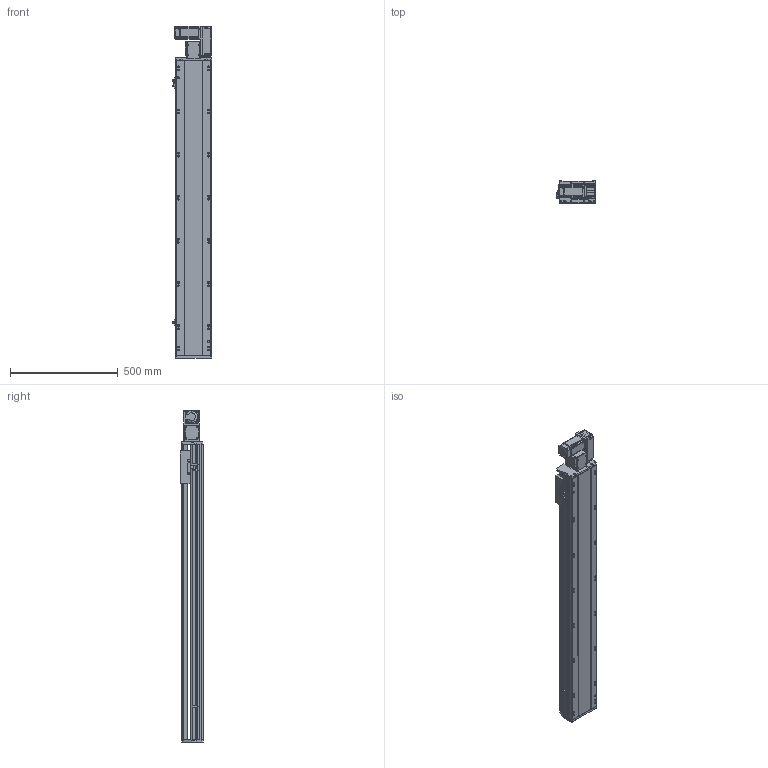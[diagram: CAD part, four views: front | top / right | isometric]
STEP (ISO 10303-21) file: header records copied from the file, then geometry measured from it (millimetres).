
FILE_DESCRIPTION (( 'STEP AP214' ), '1' );
FILE_NAME ('RTB17S-XX-1100-R-M40-C4.STEP', '2025-12-11T07:38:24', ( '' ), ( '' ), 'SwSTEP 2.0', 'SolidWorks 2018', '' );
FILE_SCHEMA (( 'AUTOMOTIVE_DESIGN' ));
Length unit declared in the file: millimetre
Products named in the file (14): RTB17S-L-014-T20--々湍釱^RTB17S-R-々湍釱蚾饜-400W_RTB17S-XX-XX-R-M40-C4; RTB14-L-017P^RTB17S-R-々湍釱蚾饜-400W_RTB17S-XX-XX-R-M40-C4; RTB17S-R-々湍釱蚾饜-400W^RTB17S-XX-XX-R-M40-C4; RTB17S-L-004佪裝蹟譫蟀諉釱^RTB17S-XX-XX-R-M40-C4; RTB14-L-018P^RTB17S-R-々湍釱蚾饜-400W_RTB17S-XX-XX-R-M40-C4; OMRON EE-SX672 传感器^RTB17S-XX-XX-R-M40-C4; RTB17S-L-001耜醱啣^RTB17S-XX-XX-R-M40-C4; RTB17-R-011菁釱^RTB17S-XX-XX-R-M40-C4; RTB17S-XX-1100-R-M40-C4; 400W侜督萇儂^RTB17S-XX-XX-R-M40-C4; RTB14-L-008-M20--萇儂啣^RTB17S-R-々湍釱蚾饜-400W_RTB17S-XX-XX-R-M40-C4; RTH13-BL-012覜茼え俋离^RTB17S-XX-XX-R-M40-C4; RTB17S-L-007奻裔^RTB17S-XX-XX-R-M40-C4; RTB14-L-005P--轴承塑胶压盖^RTB17S-R-皮带座装配-400W_RTB17S-XX-XX-R-M40-C4
Assembly tree (16 placements, depth 3):
  RTB17S-XX-1100-R-M40-C4
    RTB17-R-011菁釱^RTB17S-XX-XX-R-M40-C4
    RTB17S-L-007奻裔^RTB17S-XX-XX-R-M40-C4
    OMRON EE-SX672 传感器^RTB17S-XX-XX-R-M40-C4  x3
    RTB17S-L-001耜醱啣^RTB17S-XX-XX-R-M40-C4
    400W侜督萇儂^RTB17S-XX-XX-R-M40-C4
    RTB17S-L-004佪裝蹟譫蟀諉釱^RTB17S-XX-XX-R-M40-C4
    RTH13-BL-012覜茼え俋离^RTB17S-XX-XX-R-M40-C4
    RTB17S-R-々湍釱蚾饜-400W^RTB17S-XX-XX-R-M40-C4
      RTB17S-L-014-T20--々湍釱^RTB17S-R-々湍釱蚾饜-400W_RTB17S-XX-XX-R-M40-C4
      RTB14-L-005P--轴承塑胶压盖^RTB17S-R-皮带座装配-400W_RTB17S-XX-XX-R-M40-C4
      RTB14-L-008-M20--萇儂啣^RTB17S-R-々湍釱蚾饜-400W_RTB17S-XX-XX-R-M40-C4
      RTB14-L-017P^RTB17S-R-々湍釱蚾饜-400W_RTB17S-XX-XX-R-M40-C4  x2
      RTB14-L-018P^RTB17S-R-々湍釱蚾饜-400W_RTB17S-XX-XX-R-M40-C4
Bounding box: 183.5 x 108 x 1541 mm (x, y, z)
Volume: 13187235.8 mm3; surface area: 1587893.3 mm2
Topology: 15 solids, 15 shells, 2221 faces, 6141 edges, 4005 vertices
Faces by surface type: plane 1070, cylinder 703, bspline 301, cone 139, torus 8
Entity records: 63401 total; most frequent: CARTESIAN_POINT 17746, ORIENTED_EDGE 9126, DIRECTION 8486, EDGE_CURVE 4563, VERTEX_POINT 2993, AXIS2_PLACEMENT_3D 2923, LINE 2640, VECTOR 2640
